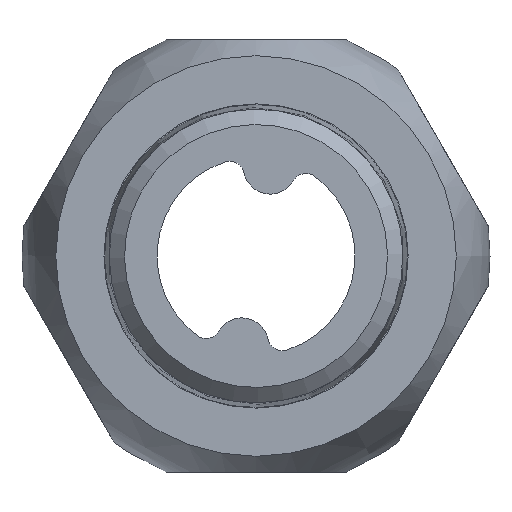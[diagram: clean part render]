
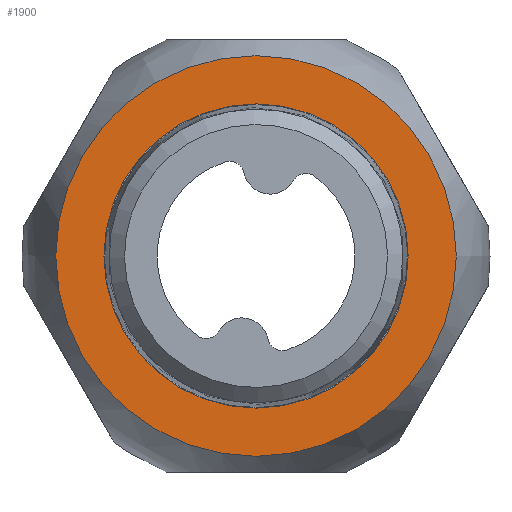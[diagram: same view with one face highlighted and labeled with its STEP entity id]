
A CAD part, left-side view. The second image highlights one B-rep face of the part: STEP entity #1900.
In plain terms, the highlighted planar face has unit normal (-1, 0, 0).
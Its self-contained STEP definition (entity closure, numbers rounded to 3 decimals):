
#1797=CARTESIAN_POINT('',(0.,11.124,0.0));
#1798=VERTEX_POINT('',#1797);
#1799=CARTESIAN_POINT('',(0.,0.0,0.0));
#1800=DIRECTION('',(1.0,0.0,0.0));
#1801=DIRECTION('',(0.0,1.0,0.0));
#1802=AXIS2_PLACEMENT_3D('',#1799,#1800,#1801);
#1803=CIRCLE('',#1802,11.124);
#1804=EDGE_CURVE('',#1798,#1798,#1803,.T.);
#1874=CARTESIAN_POINT('',(0.0,8.45,0.0));
#1875=VERTEX_POINT('',#1874);
#1876=CARTESIAN_POINT('',(0.0,0.0,0.0));
#1877=DIRECTION('',(1.0,0.0,0.0));
#1878=DIRECTION('',(0.0,1.0,0.0));
#1879=AXIS2_PLACEMENT_3D('',#1876,#1877,#1878);
#1880=CIRCLE('',#1879,8.45);
#1881=EDGE_CURVE('',#1875,#1875,#1880,.T.);
#1889=CARTESIAN_POINT('',(0.,9.787,0.0));
#1890=DIRECTION('',(-1.0,0.0,0.0));
#1891=DIRECTION('',(0.0,0.0,1.0));
#1892=AXIS2_PLACEMENT_3D('',#1889,#1890,#1891);
#1893=PLANE('',#1892);
#1894=ORIENTED_EDGE('',*,*,#1804,.F.);
#1895=EDGE_LOOP('',(#1894));
#1896=FACE_OUTER_BOUND('',#1895,.T.);
#1897=ORIENTED_EDGE('',*,*,#1881,.T.);
#1898=EDGE_LOOP('',(#1897));
#1899=FACE_BOUND('',#1898,.T.);
#1900=ADVANCED_FACE('',(#1896,#1899),#1893,.T.);
